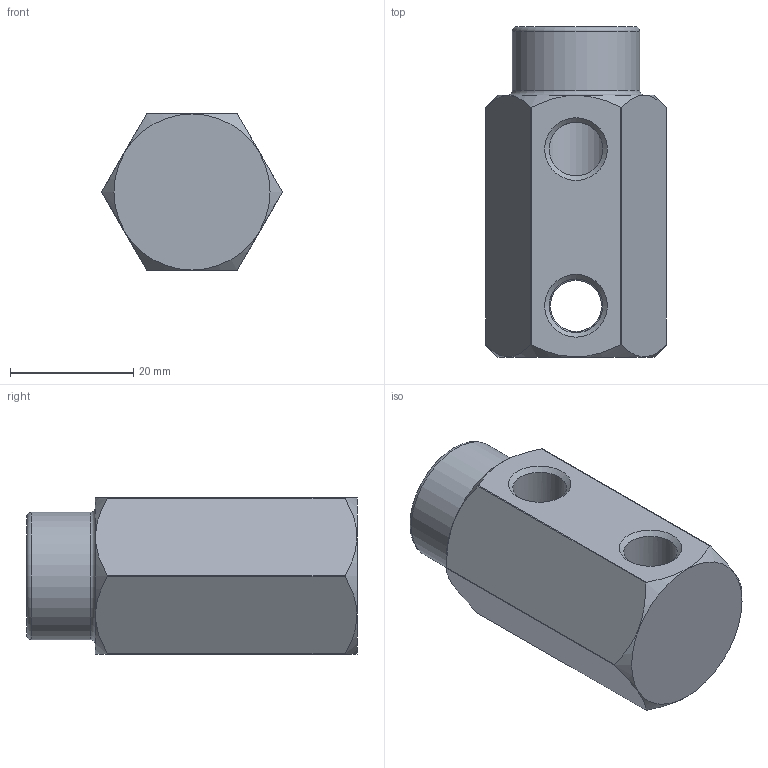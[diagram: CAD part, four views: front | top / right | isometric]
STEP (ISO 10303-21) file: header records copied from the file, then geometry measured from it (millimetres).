
FILE_DESCRIPTION(/* description */ (''),/* implementation_level */ '2;1');
FILE_NAME(/* name */ 'C:/Users/drich/Desktop/141H-HFT v1.step',/* time_stamp */ '2020-01-10T20:25:03-06:00',/* author */ (''),/* organization */ (''),/* preprocessor_version */ 'ST-DEVELOPER v18',/* originating_system */ 'Autodesk Translation Framework v8.12.0.6',/* authorisation */ '');
FILE_SCHEMA (('AUTOMOTIVE_DESIGN { 1 0 10303 214 3 1 1 }'));
Length unit declared in the file: inch
Products named in the file (2): 141H-HFT; 141H
Assembly tree (1 placements, depth 2):
  141H-HFT
    141H
Bounding box: 29.26 x 53.59 x 25.4 mm (x, y, z)
Volume: 21850.5 mm3; surface area: 7288.8 mm2
Topology: 1 solids, 1 shells, 33 faces, 94 edges, 61 vertices
Faces by surface type: cylinder 13, cone 9, plane 9, torus 2
Full cylindrical faces by diameter (mm): 6.909 x1, 8.707 x3, 11.668 x1, 20.625 x1
Entity records: 1241 total; most frequent: CARTESIAN_POINT 316, DIRECTION 191, ORIENTED_EDGE 188, EDGE_CURVE 94, AXIS2_PLACEMENT_3D 82, VERTEX_POINT 61, CIRCLE 46, EDGE_LOOP 39
